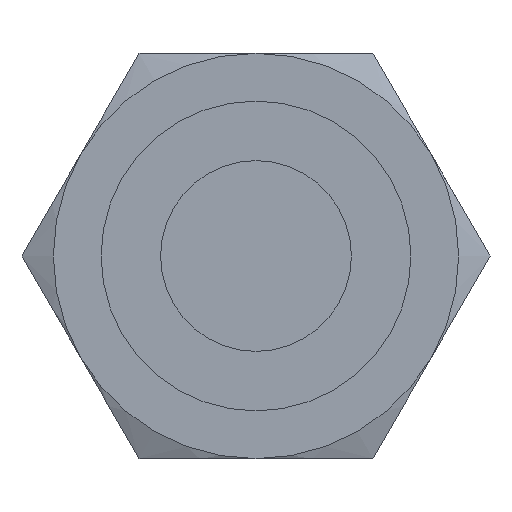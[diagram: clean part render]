
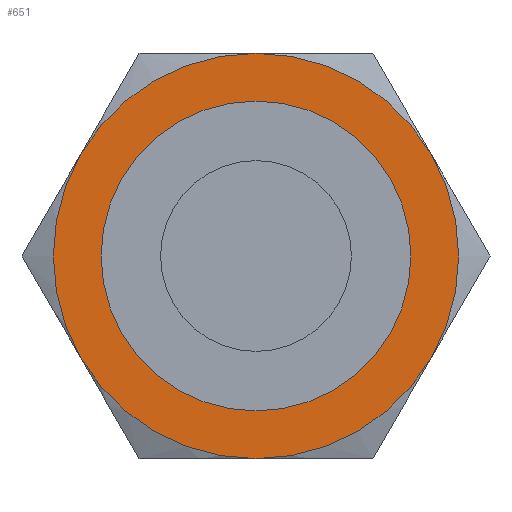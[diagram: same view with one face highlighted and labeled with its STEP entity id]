
A CAD part, front view. The second image highlights one B-rep face of the part: STEP entity #651.
In plain terms, the highlighted planar face has unit normal (0, -1, 0).
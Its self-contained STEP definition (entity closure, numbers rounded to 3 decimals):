
#72 = CARTESIAN_POINT ( 'NONE',  ( 7.361, 0., 4.25 ) ) ;
#73 = CARTESIAN_POINT ( 'NONE',  ( -7.361, 0., 4.25 ) ) ;
#78 = CARTESIAN_POINT ( 'NONE',  ( -7.361, 0., -4.25 ) ) ;
#83 = CARTESIAN_POINT ( 'NONE',  ( 0., 0., 8.5 ) ) ;
#85 = CARTESIAN_POINT ( 'NONE',  ( 0., 0., -6.5 ) ) ;
#86 = CARTESIAN_POINT ( 'NONE',  ( 0., 0., 6.5 ) ) ;
#87 = CARTESIAN_POINT ( 'NONE',  ( 7.361, 0., -4.25 ) ) ;
#88 = CARTESIAN_POINT ( 'NONE',  ( 0., 0., -8.5 ) ) ;
#177 = DIRECTION ( 'NONE',  ( 0., 0., 1. ) ) ;
#183 = DIRECTION ( 'NONE',  ( 0., 1., 0. ) ) ;
#184 = CARTESIAN_POINT ( 'NONE',  ( 0., 0., 0. ) ) ;
#189 = DIRECTION ( 'NONE',  ( 0., 0., 1. ) ) ;
#190 = DIRECTION ( 'NONE',  ( 0., 1., 0. ) ) ;
#195 = CARTESIAN_POINT ( 'NONE',  ( 0., 0., 0. ) ) ;
#196 = CARTESIAN_POINT ( 'NONE',  ( 0., 0., 0. ) ) ;
#197 = DIRECTION ( 'NONE',  ( 0., 1., 0. ) ) ;
#198 = CARTESIAN_POINT ( 'NONE',  ( 0., 0., 0. ) ) ;
#207 = DIRECTION ( 'NONE',  ( 0., 0., 1. ) ) ;
#208 = DIRECTION ( 'NONE',  ( 0., 1., 0. ) ) ;
#209 = DIRECTION ( 'NONE',  ( 0., 0., 1. ) ) ;
#212 = DIRECTION ( 'NONE',  ( 0., 1., 0. ) ) ;
#214 = CARTESIAN_POINT ( 'NONE',  ( 0., 0., 0. ) ) ;
#216 = DIRECTION ( 'NONE',  ( 0., 0., 1. ) ) ;
#217 = DIRECTION ( 'NONE',  ( 0., 0., 1. ) ) ;
#219 = DIRECTION ( 'NONE',  ( 0., 1., 0. ) ) ;
#225 = CARTESIAN_POINT ( 'NONE',  ( 0., 0., 0. ) ) ;
#227 = DIRECTION ( 'NONE',  ( 0., 0., 1. ) ) ;
#236 = DIRECTION ( 'NONE',  ( 0., 1., 0. ) ) ;
#239 = DIRECTION ( 'NONE',  ( 0., 0., -1. ) ) ;
#240 = DIRECTION ( 'NONE',  ( 0., -1., 0. ) ) ;
#245 = PLANE ( 'NONE',  #536 ) ;
#246 = CARTESIAN_POINT ( 'NONE',  ( -4.907, 0., 8.5 ) ) ;
#247 = CARTESIAN_POINT ( 'NONE',  ( 0., 0., 0. ) ) ;
#295 = DIRECTION ( 'NONE',  ( 0., 0., 1. ) ) ;
#296 = DIRECTION ( 'NONE',  ( 0., 1., 0. ) ) ;
#297 = CARTESIAN_POINT ( 'NONE',  ( 0., 0., 0. ) ) ;
#536 = AXIS2_PLACEMENT_3D ( 'NONE', #246, #240, #239 ) ;
#557 = AXIS2_PLACEMENT_3D ( 'NONE', #184, #183, #209 ) ;
#558 = AXIS2_PLACEMENT_3D ( 'NONE', #195, #190, #189 ) ;
#559 = AXIS2_PLACEMENT_3D ( 'NONE', #198, #197, #216 ) ;
#560 = AXIS2_PLACEMENT_3D ( 'NONE', #196, #208, #207 ) ;
#561 = AXIS2_PLACEMENT_3D ( 'NONE', #214, #212, #177 ) ;
#562 = AXIS2_PLACEMENT_3D ( 'NONE', #225, #219, #217 ) ;
#563 = AXIS2_PLACEMENT_3D ( 'NONE', #247, #236, #227 ) ;
#567 = AXIS2_PLACEMENT_3D ( 'NONE', #297, #296, #295 ) ;
#586 = EDGE_CURVE ( 'NONE', #878, #879, #846, .T. ) ;
#595 = EDGE_CURVE ( 'NONE', #876, #892, #835, .T. ) ;
#596 = EDGE_CURVE ( 'NONE', #877, #876, #829, .T. ) ;
#597 = EDGE_CURVE ( 'NONE', #898, #877, #827, .T. ) ;
#598 = EDGE_CURVE ( 'NONE', #887, #898, #826, .T. ) ;
#599 = EDGE_CURVE ( 'NONE', #897, #887, #825, .T. ) ;
#600 = EDGE_CURVE ( 'NONE', #892, #897, #824, .T. ) ;
#601 = EDGE_CURVE ( 'NONE', #879, #878, #822, .T. ) ;
#651 = ADVANCED_FACE ( 'NONE', ( #796, #781 ), #245, .T. ) ;
#781 = FACE_BOUND ( 'NONE', #801, .T. ) ;
#796 = FACE_OUTER_BOUND ( 'NONE', #871, .T. ) ;
#801 = EDGE_LOOP ( 'NONE', ( #941, #942 ) ) ;
#822 = CIRCLE ( 'NONE', #557, 6.5 ) ;
#824 = CIRCLE ( 'NONE', #558, 8.5 ) ;
#825 = CIRCLE ( 'NONE', #559, 8.5 ) ;
#826 = CIRCLE ( 'NONE', #560, 8.5 ) ;
#827 = CIRCLE ( 'NONE', #561, 8.5 ) ;
#829 = CIRCLE ( 'NONE', #562, 8.5 ) ;
#835 = CIRCLE ( 'NONE', #563, 8.5 ) ;
#846 = CIRCLE ( 'NONE', #567, 6.5 ) ;
#871 = EDGE_LOOP ( 'NONE', ( #934, #935, #936, #938, #939, #940 ) ) ;
#876 = VERTEX_POINT ( 'NONE', #88 ) ;
#877 = VERTEX_POINT ( 'NONE', #87 ) ;
#878 = VERTEX_POINT ( 'NONE', #86 ) ;
#879 = VERTEX_POINT ( 'NONE', #85 ) ;
#887 = VERTEX_POINT ( 'NONE', #83 ) ;
#892 = VERTEX_POINT ( 'NONE', #78 ) ;
#897 = VERTEX_POINT ( 'NONE', #73 ) ;
#898 = VERTEX_POINT ( 'NONE', #72 ) ;
#934 = ORIENTED_EDGE ( 'NONE', *, *, #595, .F. ) ;
#935 = ORIENTED_EDGE ( 'NONE', *, *, #596, .F. ) ;
#936 = ORIENTED_EDGE ( 'NONE', *, *, #597, .F. ) ;
#938 = ORIENTED_EDGE ( 'NONE', *, *, #598, .F. ) ;
#939 = ORIENTED_EDGE ( 'NONE', *, *, #599, .F. ) ;
#940 = ORIENTED_EDGE ( 'NONE', *, *, #600, .F. ) ;
#941 = ORIENTED_EDGE ( 'NONE', *, *, #586, .T. ) ;
#942 = ORIENTED_EDGE ( 'NONE', *, *, #601, .T. ) ;
